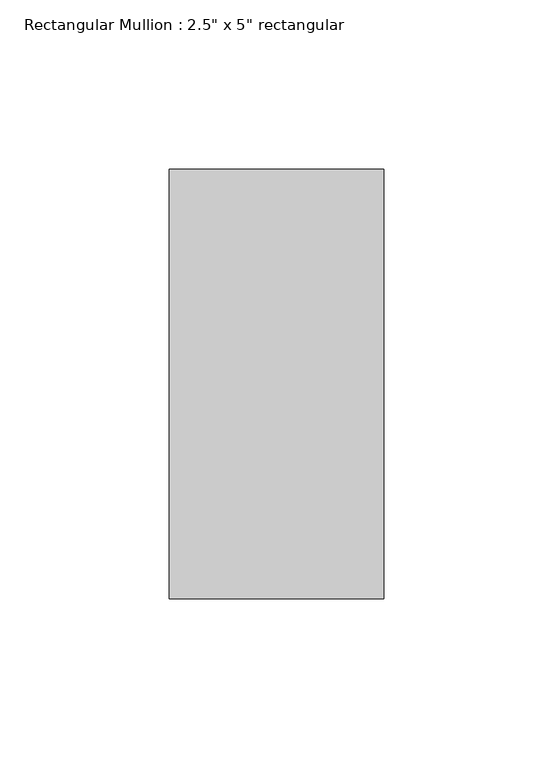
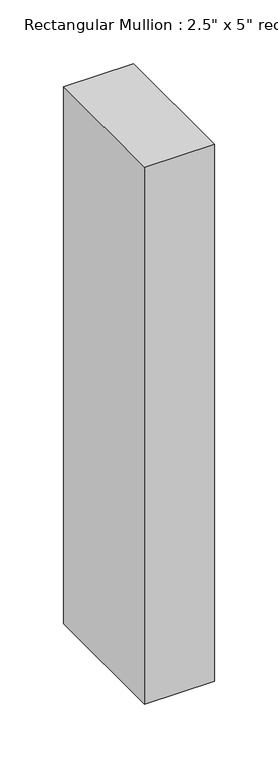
"""IFC4 building model written with IfcOpenShell, lengths in millimetres: member geometry."""

from ifc_helpers import new_model, si_unit, frame, origin, place, context, project, spatial, polyline, outline, extrude, source, transform, mapped, element, save


def member_0b7646a3(model_context):
    return source(origin(), model_context, "Body", "SweptSolid", [
        extrude(outline(polyline([(0.0, 63.5), (0.0, -63.5), (-63.5, -63.5), (-63.5, 63.5), (0.0, 63.5)])), frame((0.0, 0.0, -514.35), z_axis=(0.0, 0.0, 1.0), x_axis=(1.0, 0.0, 0.0)), (0.0, 0.0, 1.0), 514.35),
    ])


if __name__ == "__main__":
    model = new_model("IFC4")
    model_context = context("Model", 3, world=origin())
    ifc_project = project(units=[si_unit("LENGTHUNIT", "METRE", prefix="MILLI")], contexts=[model_context])
    site = spatial("IfcSite", under=ifc_project)
    building = spatial("IfcBuilding", under=site)
    placement = place(None, origin())
    member_shape = member_0b7646a3(model_context)
    element("IfcMember", 1, ObjectType="Rectangular Mullion : 2.5\" x 5\" rectangular", at=placement, inside=building, context=model_context, shape_type="MappedRepresentation", body=[
        mapped(member_shape, transform((0.0, 0.0, 0.0), x_axis=(1.0, 0.0, 0.0), y_axis=(0.0, 1.0, 0.0), z_axis=(0.0, 0.0, 1.0))),
    ])
    save(model, "model.ifc")
